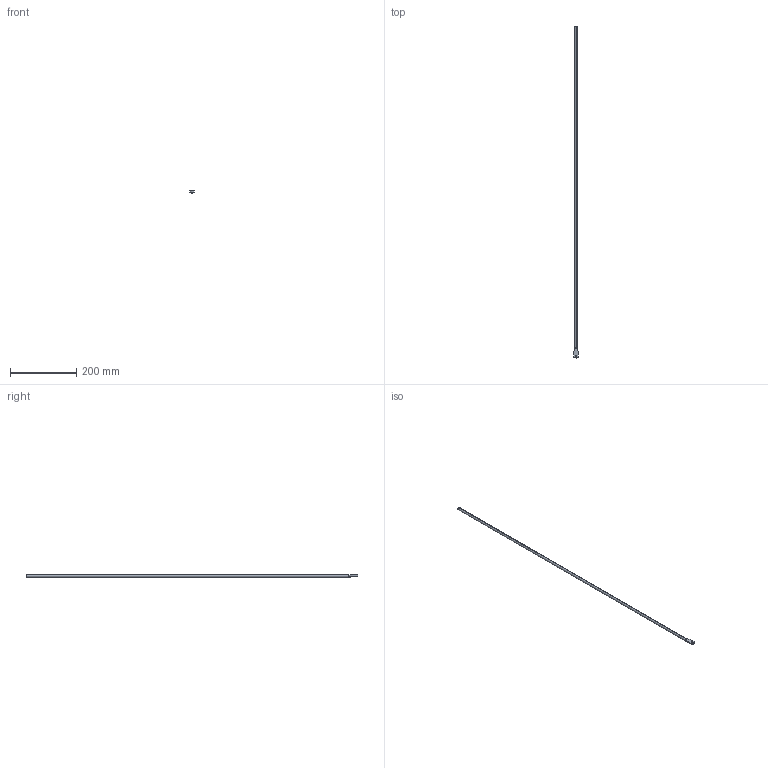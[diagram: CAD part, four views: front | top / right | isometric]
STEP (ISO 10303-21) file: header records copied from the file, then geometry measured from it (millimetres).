
FILE_DESCRIPTION (( 'STEP AP214' ), '1' );
FILE_NAME ('P48L.STEP', '2016-08-18T06:20:25', ( 'RST-Dolba' ), ( '' ), 'SwSTEP 2.0', 'SolidWorks 2015', '' );
FILE_SCHEMA (( 'AUTOMOTIVE_DESIGN' ));
Length unit declared in the file: millimetre
Products named in the file (1): P48L
Bounding box: 13 x 1006 x 8 mm (x, y, z)
Volume: 50550.5 mm3; surface area: 25618.3 mm2
Topology: 1 solids, 1 shells, 18 faces, 47 edges, 27 vertices
Faces by surface type: cylinder 7, plane 5, bspline 4, torus 2
Entity records: 766 total; most frequent: CARTESIAN_POINT 315, DIRECTION 90, ORIENTED_EDGE 86, EDGE_CURVE 43, AXIS2_PLACEMENT_3D 38, VERTEX_POINT 27, CIRCLE 23, EDGE_LOOP 20
